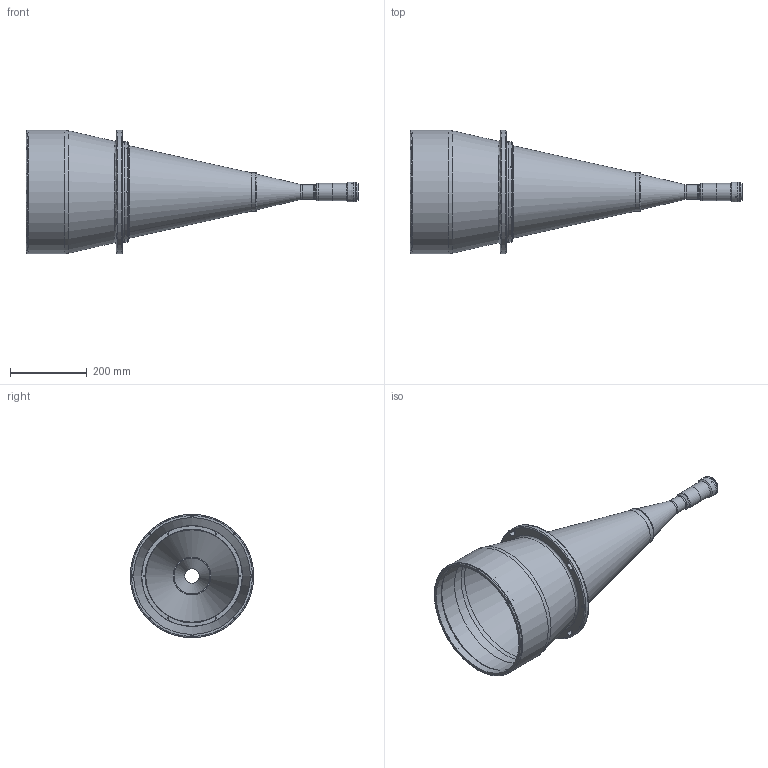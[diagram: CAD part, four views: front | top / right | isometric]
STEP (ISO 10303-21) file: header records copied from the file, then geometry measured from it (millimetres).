
FILE_DESCRIPTION(('LS-TCL-0133'),'2;1');
FILE_NAME('LS-TCL-0133.stp','2026-10-15T21:54:04',('LumaSpec Vision'),('LumaSpec Vision'),'LumaSpec Vision','LumaSpec Vision','');
FILE_SCHEMA(('AUTOMOTIVE_DESIGN { 1 0 10303 214 1 1 1 1 }'));
Length unit declared in the file: millimetre
Products named in the file (167): LumaSpec Vision
Assembly tree (166 placements, depth 2):
  LumaSpec Vision
    LumaSpec Vision
    LumaSpec Vision
    LumaSpec Vision
    LumaSpec Vision
    LumaSpec Vision
    LumaSpec Vision
    LumaSpec Vision
    LumaSpec Vision
    LumaSpec Vision
    LumaSpec Vision
    LumaSpec Vision
    LumaSpec Vision
    LumaSpec Vision
    LumaSpec Vision
    LumaSpec Vision
    LumaSpec Vision
    LumaSpec Vision
    LumaSpec Vision
    LumaSpec Vision
    LumaSpec Vision
    LumaSpec Vision
    LumaSpec Vision
    LumaSpec Vision
    LumaSpec Vision
    LumaSpec Vision
    LumaSpec Vision
    LumaSpec Vision
    LumaSpec Vision
    LumaSpec Vision
    LumaSpec Vision
    LumaSpec Vision
    LumaSpec Vision
    LumaSpec Vision
    LumaSpec Vision
    LumaSpec Vision
    LumaSpec Vision
    LumaSpec Vision
    LumaSpec Vision
    LumaSpec Vision
    LumaSpec Vision
    LumaSpec Vision
    LumaSpec Vision
    LumaSpec Vision
    LumaSpec Vision
    LumaSpec Vision
    LumaSpec Vision
    LumaSpec Vision
    LumaSpec Vision
    LumaSpec Vision
    LumaSpec Vision
    LumaSpec Vision
    LumaSpec Vision
    LumaSpec Vision
    LumaSpec Vision
    LumaSpec Vision
    LumaSpec Vision
    LumaSpec Vision
    LumaSpec Vision
    LumaSpec Vision
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Bounding box: 866.45 x 322 x 322 mm (x, y, z)
Surface area: 648942.6 mm2 (no closed solid volume)
Topology: 0 solids, 166 shells, 166 faces, 1087 edges, 1020 vertices
Faces by surface type: revolution 103, bspline 63
Entity records: 31810 total; most frequent: CARTESIAN_POINT 15793, DIRECTION 2098, ORIENTED_EDGE 1153, PCURVE 1153, DEFINITIONAL_REPRESENTATION 1153, B_SPLINE_CURVE_WITH_KNOTS 1134, EDGE_CURVE 1087, SURFACE_CURVE 1021
